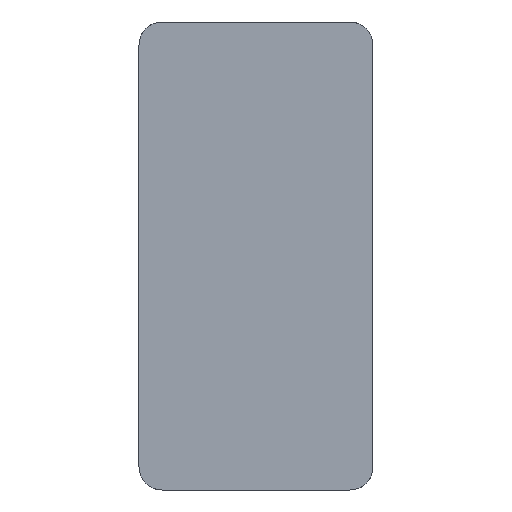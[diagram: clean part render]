
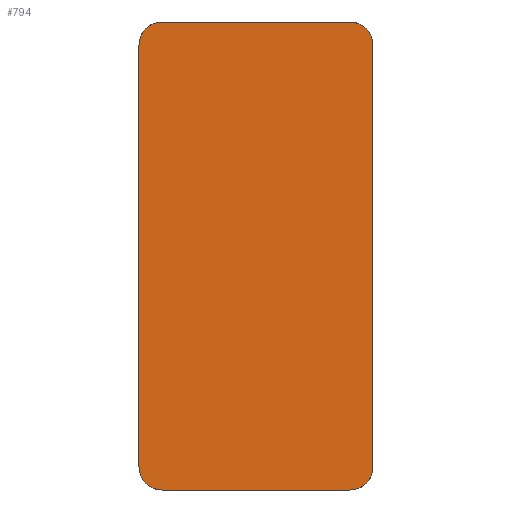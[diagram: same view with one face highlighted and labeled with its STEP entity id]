
A CAD part, front view. The second image highlights one B-rep face of the part: STEP entity #794.
In plain terms, the highlighted planar face has unit normal (0, -1, 0).
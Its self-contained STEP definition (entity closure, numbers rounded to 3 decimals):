
#16 = CARTESIAN_POINT ( 'NONE',  ( 20., 0., 50. ) ) ;
#108 = DIRECTION ( 'NONE',  ( -1., 0., 0. ) ) ;
#137 = CARTESIAN_POINT ( 'NONE',  ( -25., 0., -50. ) ) ;
#158 = EDGE_CURVE ( 'NONE', #1093, #2176, #2064, .T. ) ;
#190 = DIRECTION ( 'NONE',  ( 0., 0., -1. ) ) ;
#212 = AXIS2_PLACEMENT_3D ( 'NONE', #2086, #1471, #190 ) ;
#303 = DIRECTION ( 'NONE',  ( 0., -1., 0. ) ) ;
#358 = EDGE_CURVE ( 'NONE', #1001, #2029, #1573, .T. ) ;
#440 = DIRECTION ( 'NONE',  ( 0., 0., -1. ) ) ;
#449 = DIRECTION ( 'NONE',  ( 0., 0., -1. ) ) ;
#490 = CARTESIAN_POINT ( 'NONE',  ( -25., 0., -50. ) ) ;
#491 = VERTEX_POINT ( 'NONE', #1891 ) ;
#503 = DIRECTION ( 'NONE',  ( 1., 0., 0. ) ) ;
#528 = EDGE_CURVE ( 'NONE', #2001, #1451, #1281, .T. ) ;
#572 = VERTEX_POINT ( 'NONE', #2798 ) ;
#598 = ORIENTED_EDGE ( 'NONE', *, *, #158, .T. ) ;
#665 = VECTOR ( 'NONE', #440, 1000. ) ;
#734 = PLANE ( 'NONE',  #1284 ) ;
#775 = VECTOR ( 'NONE', #1148, 1000. ) ;
#794 = ADVANCED_FACE ( 'NONE', ( #2778 ), #734, .T. ) ;
#801 = AXIS2_PLACEMENT_3D ( 'NONE', #1712, #2617, #2590 ) ;
#812 = EDGE_CURVE ( 'NONE', #1451, #1093, #2081, .T. ) ;
#839 = ORIENTED_EDGE ( 'NONE', *, *, #2843, .T. ) ;
#849 = CARTESIAN_POINT ( 'NONE',  ( -25., 0., 50. ) ) ;
#889 = CARTESIAN_POINT ( 'NONE',  ( -20., 0., 50. ) ) ;
#995 = VECTOR ( 'NONE', #108, 1000. ) ;
#996 = CARTESIAN_POINT ( 'NONE',  ( -25., 0., -45. ) ) ;
#1001 = VERTEX_POINT ( 'NONE', #996 ) ;
#1074 = EDGE_LOOP ( 'NONE', ( #2613, #2871, #1530, #839, #2288, #2324, #2656, #598 ) ) ;
#1093 = VERTEX_POINT ( 'NONE', #889 ) ;
#1116 = CARTESIAN_POINT ( 'NONE',  ( -20., 0., -45. ) ) ;
#1148 = DIRECTION ( 'NONE',  ( 0., 0., 1. ) ) ;
#1195 = CARTESIAN_POINT ( 'NONE',  ( 20., 0., 45. ) ) ;
#1281 = CIRCLE ( 'NONE', #2347, 5. ) ;
#1284 = AXIS2_PLACEMENT_3D ( 'NONE', #137, #1460, #2519 ) ;
#1353 = CARTESIAN_POINT ( 'NONE',  ( 25., 0., 45. ) ) ;
#1451 = VERTEX_POINT ( 'NONE', #16 ) ;
#1460 = DIRECTION ( 'NONE',  ( 0., -1., 0. ) ) ;
#1471 = DIRECTION ( 'NONE',  ( 0., -1., 0. ) ) ;
#1530 = ORIENTED_EDGE ( 'NONE', *, *, #1719, .T. ) ;
#1556 = CARTESIAN_POINT ( 'NONE',  ( 25., 0., 50. ) ) ;
#1573 = CIRCLE ( 'NONE', #2249, 5. ) ;
#1593 = EDGE_CURVE ( 'NONE', #491, #2001, #2635, .T. ) ;
#1638 = DIRECTION ( 'NONE',  ( 0., 0., -1. ) ) ;
#1712 = CARTESIAN_POINT ( 'NONE',  ( 20., 0., -45. ) ) ;
#1719 = EDGE_CURVE ( 'NONE', #2029, #572, #2499, .T. ) ;
#1882 = CIRCLE ( 'NONE', #801, 5. ) ;
#1891 = CARTESIAN_POINT ( 'NONE',  ( 25., 0., -45. ) ) ;
#2001 = VERTEX_POINT ( 'NONE', #1353 ) ;
#2029 = VERTEX_POINT ( 'NONE', #2427 ) ;
#2064 = CIRCLE ( 'NONE', #212, 5. ) ;
#2081 = LINE ( 'NONE', #2313, #995 ) ;
#2086 = CARTESIAN_POINT ( 'NONE',  ( -20., 0., 45. ) ) ;
#2109 = CARTESIAN_POINT ( 'NONE',  ( -25., 0., 45. ) ) ;
#2176 = VERTEX_POINT ( 'NONE', #2109 ) ;
#2249 = AXIS2_PLACEMENT_3D ( 'NONE', #1116, #2442, #449 ) ;
#2288 = ORIENTED_EDGE ( 'NONE', *, *, #1593, .T. ) ;
#2313 = CARTESIAN_POINT ( 'NONE',  ( -25., 0., 50. ) ) ;
#2324 = ORIENTED_EDGE ( 'NONE', *, *, #528, .T. ) ;
#2347 = AXIS2_PLACEMENT_3D ( 'NONE', #1195, #303, #1638 ) ;
#2427 = CARTESIAN_POINT ( 'NONE',  ( -20., 0., -50. ) ) ;
#2442 = DIRECTION ( 'NONE',  ( 0., -1., 0. ) ) ;
#2465 = VECTOR ( 'NONE', #503, 1000. ) ;
#2499 = LINE ( 'NONE', #490, #2465 ) ;
#2519 = DIRECTION ( 'NONE',  ( 0., 0., -1. ) ) ;
#2590 = DIRECTION ( 'NONE',  ( 0., 0., -1. ) ) ;
#2613 = ORIENTED_EDGE ( 'NONE', *, *, #2807, .T. ) ;
#2617 = DIRECTION ( 'NONE',  ( 0., -1., 0. ) ) ;
#2635 = LINE ( 'NONE', #1556, #775 ) ;
#2656 = ORIENTED_EDGE ( 'NONE', *, *, #812, .T. ) ;
#2778 = FACE_OUTER_BOUND ( 'NONE', #1074, .T. ) ;
#2798 = CARTESIAN_POINT ( 'NONE',  ( 20., 0., -50. ) ) ;
#2804 = LINE ( 'NONE', #849, #665 ) ;
#2807 = EDGE_CURVE ( 'NONE', #2176, #1001, #2804, .T. ) ;
#2843 = EDGE_CURVE ( 'NONE', #572, #491, #1882, .T. ) ;
#2871 = ORIENTED_EDGE ( 'NONE', *, *, #358, .T. ) ;
